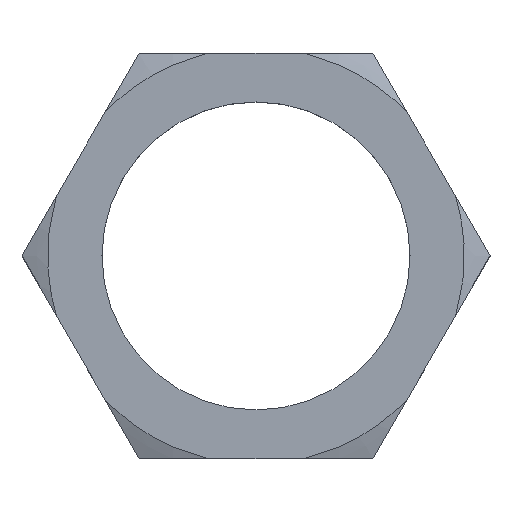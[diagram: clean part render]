
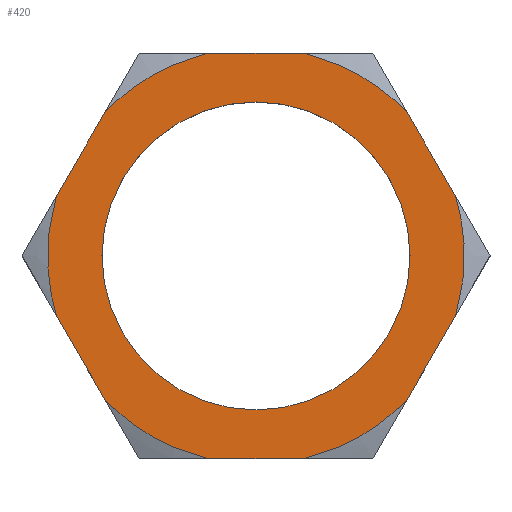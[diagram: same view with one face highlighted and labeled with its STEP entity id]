
A CAD part, top view. The second image highlights one B-rep face of the part: STEP entity #420.
In plain terms, the highlighted planar face has unit normal (0, 0, 1).
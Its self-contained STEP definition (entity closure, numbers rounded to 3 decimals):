
#57=CARTESIAN_POINT('Axis2P3D Location',(0.,0.,78.)) ;
#61=CARTESIAN_POINT('Vertex',(-19.,0.,78.)) ;
#63=CARTESIAN_POINT('Vertex',(19.,0.,78.)) ;
#92=CARTESIAN_POINT('Axis2P3D Location',(0.,0.,78.)) ;
#271=CARTESIAN_POINT('Axis2P3D Location',(0.,0.,78.)) ;
#277=CARTESIAN_POINT('Control Point',(-5.976,25.,78.)) ;
#278=CARTESIAN_POINT('Control Point',(-7.589,24.614,78.)) ;
#279=CARTESIAN_POINT('Control Point',(-9.171,24.099,78.)) ;
#280=CARTESIAN_POINT('Control Point',(-10.708,23.456,78.)) ;
#281=CARTESIAN_POINT('Control Point',(-13.356,22.088,78.)) ;
#282=CARTESIAN_POINT('Control Point',(-15.778,20.356,78.)) ;
#283=CARTESIAN_POINT('Control Point',(-16.797,19.524,78.)) ;
#284=CARTESIAN_POINT('Control Point',(-17.76,18.628,78.)) ;
#285=CARTESIAN_POINT('Control Point',(-18.663,17.675,78.)) ;
#286=CARTESIAN_POINT('Vertex',(-5.976,25.,78.)) ;
#288=CARTESIAN_POINT('Vertex',(-18.663,17.675,78.)) ;
#291=CARTESIAN_POINT('Line Origine',(-21.651,12.5,78.)) ;
#295=CARTESIAN_POINT('Vertex',(-24.639,7.325,78.)) ;
#299=CARTESIAN_POINT('Control Point',(-24.639,7.325,78.)) ;
#300=CARTESIAN_POINT('Control Point',(-24.995,6.125,78.)) ;
#301=CARTESIAN_POINT('Control Point',(-25.279,4.904,78.)) ;
#302=CARTESIAN_POINT('Control Point',(-25.488,3.667,78.)) ;
#303=CARTESIAN_POINT('Control Point',(-25.797,0.768,78.)) ;
#304=CARTESIAN_POINT('Control Point',(-25.695,-2.15,78.)) ;
#305=CARTESIAN_POINT('Control Point',(-25.503,-3.805,78.)) ;
#306=CARTESIAN_POINT('Control Point',(-25.165,-5.497,78.)) ;
#307=CARTESIAN_POINT('Control Point',(-24.69,-7.15,78.)) ;
#308=CARTESIAN_POINT('Control Point',(-24.673,-7.208,78.)) ;
#309=CARTESIAN_POINT('Control Point',(-24.656,-7.266,78.)) ;
#310=CARTESIAN_POINT('Control Point',(-24.639,-7.325,78.)) ;
#311=CARTESIAN_POINT('Vertex',(-24.639,-7.325,78.)) ;
#314=CARTESIAN_POINT('Line Origine',(-21.651,-12.5,78.)) ;
#318=CARTESIAN_POINT('Vertex',(-18.663,-17.675,78.)) ;
#322=CARTESIAN_POINT('Control Point',(-5.976,-25.,78.)) ;
#323=CARTESIAN_POINT('Control Point',(-7.589,-24.614,78.)) ;
#324=CARTESIAN_POINT('Control Point',(-9.171,-24.099,78.)) ;
#325=CARTESIAN_POINT('Control Point',(-10.708,-23.456,78.)) ;
#326=CARTESIAN_POINT('Control Point',(-13.356,-22.088,78.)) ;
#327=CARTESIAN_POINT('Control Point',(-15.778,-20.356,78.)) ;
#328=CARTESIAN_POINT('Control Point',(-16.797,-19.524,78.)) ;
#329=CARTESIAN_POINT('Control Point',(-17.76,-18.628,78.)) ;
#330=CARTESIAN_POINT('Control Point',(-18.663,-17.675,78.)) ;
#331=CARTESIAN_POINT('Vertex',(-5.976,-25.,78.)) ;
#334=CARTESIAN_POINT('Line Origine',(0.,-25.,78.)) ;
#338=CARTESIAN_POINT('Vertex',(5.976,-25.,78.)) ;
#342=CARTESIAN_POINT('Control Point',(5.976,-25.,78.)) ;
#343=CARTESIAN_POINT('Control Point',(7.589,-24.614,78.)) ;
#344=CARTESIAN_POINT('Control Point',(9.171,-24.099,78.)) ;
#345=CARTESIAN_POINT('Control Point',(10.708,-23.456,78.)) ;
#346=CARTESIAN_POINT('Control Point',(13.356,-22.088,78.)) ;
#347=CARTESIAN_POINT('Control Point',(15.778,-20.356,78.)) ;
#348=CARTESIAN_POINT('Control Point',(16.797,-19.524,78.)) ;
#349=CARTESIAN_POINT('Control Point',(17.76,-18.628,78.)) ;
#350=CARTESIAN_POINT('Control Point',(18.663,-17.675,78.)) ;
#351=CARTESIAN_POINT('Vertex',(18.663,-17.675,78.)) ;
#354=CARTESIAN_POINT('Line Origine',(21.651,-12.5,78.)) ;
#358=CARTESIAN_POINT('Vertex',(24.639,-7.325,78.)) ;
#362=CARTESIAN_POINT('Control Point',(24.639,-7.325,78.)) ;
#363=CARTESIAN_POINT('Control Point',(24.995,-6.125,78.)) ;
#364=CARTESIAN_POINT('Control Point',(25.279,-4.904,78.)) ;
#365=CARTESIAN_POINT('Control Point',(25.488,-3.667,78.)) ;
#366=CARTESIAN_POINT('Control Point',(25.797,-0.768,78.)) ;
#367=CARTESIAN_POINT('Control Point',(25.695,2.15,78.)) ;
#368=CARTESIAN_POINT('Control Point',(25.503,3.805,78.)) ;
#369=CARTESIAN_POINT('Control Point',(25.165,5.497,78.)) ;
#370=CARTESIAN_POINT('Control Point',(24.69,7.15,78.)) ;
#371=CARTESIAN_POINT('Control Point',(24.673,7.208,78.)) ;
#372=CARTESIAN_POINT('Control Point',(24.656,7.266,78.)) ;
#373=CARTESIAN_POINT('Control Point',(24.639,7.325,78.)) ;
#374=CARTESIAN_POINT('Vertex',(24.639,7.325,78.)) ;
#377=CARTESIAN_POINT('Line Origine',(21.651,12.5,78.)) ;
#381=CARTESIAN_POINT('Vertex',(18.663,17.675,78.)) ;
#385=CARTESIAN_POINT('Control Point',(5.976,25.,78.)) ;
#386=CARTESIAN_POINT('Control Point',(7.589,24.614,78.)) ;
#387=CARTESIAN_POINT('Control Point',(9.171,24.099,78.)) ;
#388=CARTESIAN_POINT('Control Point',(10.708,23.456,78.)) ;
#389=CARTESIAN_POINT('Control Point',(13.356,22.088,78.)) ;
#390=CARTESIAN_POINT('Control Point',(15.778,20.356,78.)) ;
#391=CARTESIAN_POINT('Control Point',(16.797,19.524,78.)) ;
#392=CARTESIAN_POINT('Control Point',(17.76,18.628,78.)) ;
#393=CARTESIAN_POINT('Control Point',(18.663,17.675,78.)) ;
#394=CARTESIAN_POINT('Vertex',(5.976,25.,78.)) ;
#397=CARTESIAN_POINT('Line Origine',(0.,25.,78.)) ;
#58=DIRECTION('Axis2P3D Direction',(0.,0.,1.)) ;
#93=DIRECTION('Axis2P3D Direction',(0.,0.,1.)) ;
#272=DIRECTION('Axis2P3D Direction',(0.,0.,1.)) ;
#273=DIRECTION('Axis2P3D XDirection',(1.,0.,0.)) ;
#292=DIRECTION('Vector Direction',(-0.5,-0.866,0.)) ;
#315=DIRECTION('Vector Direction',(0.5,-0.866,0.)) ;
#335=DIRECTION('Vector Direction',(1.,0.,0.)) ;
#355=DIRECTION('Vector Direction',(0.5,0.866,0.)) ;
#378=DIRECTION('Vector Direction',(-0.5,0.866,0.)) ;
#398=DIRECTION('Vector Direction',(-1.,0.,0.)) ;
#59=AXIS2_PLACEMENT_3D('Circle Axis2P3D',#57,#58,$) ;
#94=AXIS2_PLACEMENT_3D('Circle Axis2P3D',#92,#93,$) ;
#274=AXIS2_PLACEMENT_3D('Plane Axis2P3D',#271,#272,#273) ;
#403=ORIENTED_EDGE('',*,*,#290,.T.) ;
#404=ORIENTED_EDGE('',*,*,#297,.T.) ;
#405=ORIENTED_EDGE('',*,*,#313,.T.) ;
#406=ORIENTED_EDGE('',*,*,#320,.T.) ;
#407=ORIENTED_EDGE('',*,*,#333,.F.) ;
#408=ORIENTED_EDGE('',*,*,#340,.T.) ;
#409=ORIENTED_EDGE('',*,*,#353,.T.) ;
#410=ORIENTED_EDGE('',*,*,#360,.T.) ;
#411=ORIENTED_EDGE('',*,*,#376,.T.) ;
#412=ORIENTED_EDGE('',*,*,#383,.T.) ;
#413=ORIENTED_EDGE('',*,*,#396,.F.) ;
#414=ORIENTED_EDGE('',*,*,#401,.T.) ;
#417=ORIENTED_EDGE('',*,*,#65,.F.) ;
#418=ORIENTED_EDGE('',*,*,#96,.F.) ;
#419=FACE_BOUND('',#416,.T.) ;
#293=VECTOR('Line Direction',#292,1.) ;
#316=VECTOR('Line Direction',#315,1.) ;
#336=VECTOR('Line Direction',#335,1.) ;
#356=VECTOR('Line Direction',#355,1.) ;
#379=VECTOR('Line Direction',#378,1.) ;
#399=VECTOR('Line Direction',#398,1.) ;
#420=ADVANCED_FACE('',(#415,#419),#275,.T.) ;
#276=B_SPLINE_CURVE_WITH_KNOTS('',5,(#277,#278,#279,#280,#281,#282,#283,#284,#285),.UNSPECIFIED.,.F.,.U.,(6,3,6),(0.,8.755,15.684),.UNSPECIFIED.) ;
#298=B_SPLINE_CURVE_WITH_KNOTS('',5,(#299,#300,#301,#302,#303,#304,#305,#306,#307,#308,#309,#310),.UNSPECIFIED.,.F.,.U.,(6,3,3,6),(28.419,35.025,43.781,44.103),.UNSPECIFIED.) ;
#321=B_SPLINE_CURVE_WITH_KNOTS('',5,(#322,#323,#324,#325,#326,#327,#328,#329,#330),.UNSPECIFIED.,.F.,.U.,(6,3,6),(0.,8.755,15.684),.UNSPECIFIED.) ;
#341=B_SPLINE_CURVE_WITH_KNOTS('',5,(#342,#343,#344,#345,#346,#347,#348,#349,#350),.UNSPECIFIED.,.F.,.U.,(6,3,6),(0.,8.755,15.684),.UNSPECIFIED.) ;
#361=B_SPLINE_CURVE_WITH_KNOTS('',5,(#362,#363,#364,#365,#366,#367,#368,#369,#370,#371,#372,#373),.UNSPECIFIED.,.F.,.U.,(6,3,3,6),(28.419,35.025,43.781,44.103),.UNSPECIFIED.) ;
#384=B_SPLINE_CURVE_WITH_KNOTS('',5,(#385,#386,#387,#388,#389,#390,#391,#392,#393),.UNSPECIFIED.,.F.,.U.,(6,3,6),(0.,8.755,15.684),.UNSPECIFIED.) ;
#60=CIRCLE('generated circle',#59,19.) ;
#95=CIRCLE('generated circle',#94,19.) ;
#65=EDGE_CURVE('',#62,#64,#60,.T.) ;
#96=EDGE_CURVE('',#64,#62,#95,.T.) ;
#290=EDGE_CURVE('',#287,#289,#276,.T.) ;
#297=EDGE_CURVE('',#289,#296,#294,.T.) ;
#313=EDGE_CURVE('',#296,#312,#298,.T.) ;
#320=EDGE_CURVE('',#312,#319,#317,.T.) ;
#333=EDGE_CURVE('',#332,#319,#321,.T.) ;
#340=EDGE_CURVE('',#332,#339,#337,.T.) ;
#353=EDGE_CURVE('',#339,#352,#341,.T.) ;
#360=EDGE_CURVE('',#352,#359,#357,.T.) ;
#376=EDGE_CURVE('',#359,#375,#361,.T.) ;
#383=EDGE_CURVE('',#375,#382,#380,.T.) ;
#396=EDGE_CURVE('',#395,#382,#384,.T.) ;
#401=EDGE_CURVE('',#395,#287,#400,.T.) ;
#402=EDGE_LOOP('',(#403,#404,#405,#406,#407,#408,#409,#410,#411,#412,#413,#414)) ;
#416=EDGE_LOOP('',(#417,#418)) ;
#415=FACE_OUTER_BOUND('',#402,.T.) ;
#294=LINE('Line',#291,#293) ;
#317=LINE('Line',#314,#316) ;
#337=LINE('Line',#334,#336) ;
#357=LINE('Line',#354,#356) ;
#380=LINE('Line',#377,#379) ;
#400=LINE('Line',#397,#399) ;
#275=PLANE('Plane',#274) ;
#62=VERTEX_POINT('',#61) ;
#64=VERTEX_POINT('',#63) ;
#287=VERTEX_POINT('',#286) ;
#289=VERTEX_POINT('',#288) ;
#296=VERTEX_POINT('',#295) ;
#312=VERTEX_POINT('',#311) ;
#319=VERTEX_POINT('',#318) ;
#332=VERTEX_POINT('',#331) ;
#339=VERTEX_POINT('',#338) ;
#352=VERTEX_POINT('',#351) ;
#359=VERTEX_POINT('',#358) ;
#375=VERTEX_POINT('',#374) ;
#382=VERTEX_POINT('',#381) ;
#395=VERTEX_POINT('',#394) ;
